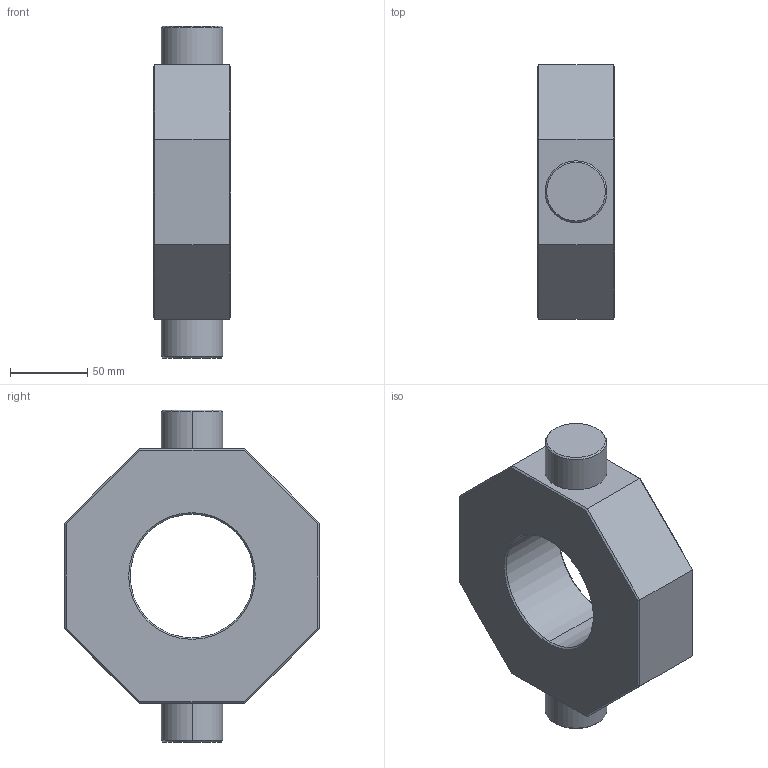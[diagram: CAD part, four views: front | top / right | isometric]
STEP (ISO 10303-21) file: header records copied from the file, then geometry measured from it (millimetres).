
FILE_DESCRIPTION (( 'STEP AP214' ), '1' );
FILE_NAME ('LB-KA-80.STEP', '2025-04-08T13:11:19', ( '' ), ( '' ), 'SwSTEP 2.0', 'SolidWorks 2023', '' );
FILE_SCHEMA (( 'AUTOMOTIVE_DESIGN' ));
Length unit declared in the file: millimetre
Products named in the file (1): LB-KA-80
Bounding box: 50 x 165 x 215 mm (x, y, z)
Volume: 929952.2 mm3; surface area: 83912 mm2
Topology: 1 solids, 1 shells, 78 faces, 174 edges, 94 vertices
Faces by surface type: cone 32, plane 28, cylinder 18
Entity records: 2053 total; most frequent: DIRECTION 376, CARTESIAN_POINT 335, ORIENTED_EDGE 324, EDGE_CURVE 162, AXIS2_PLACEMENT_3D 135, VECTOR 106, LINE 106, VERTEX_POINT 94
